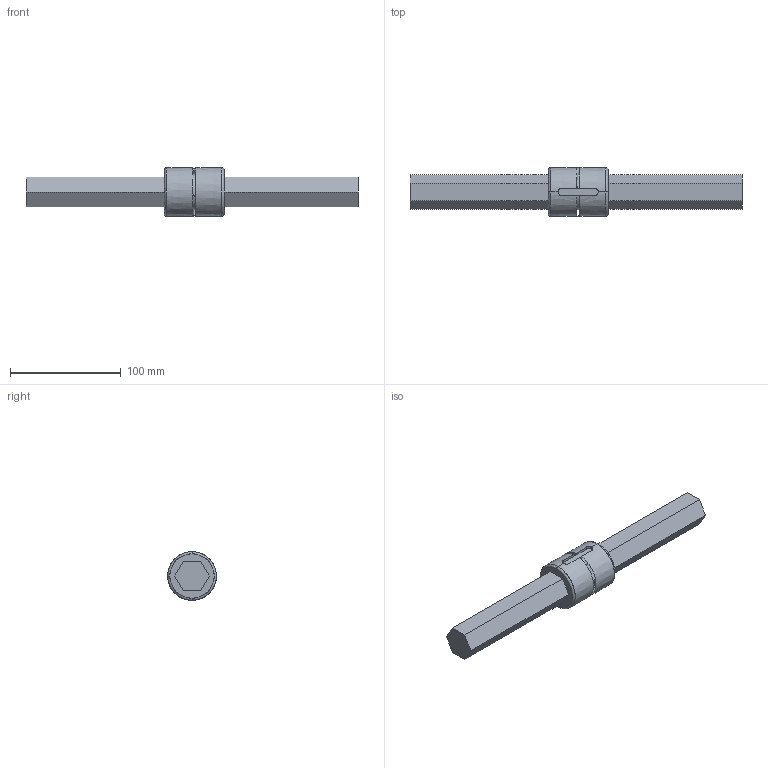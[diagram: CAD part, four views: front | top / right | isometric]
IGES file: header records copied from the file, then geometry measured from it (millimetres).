
Global section: file name: No Iges File Name specified; native system: AutoDesk Inventor R10; preprocessor: AutoDesk Inventor Iges Exporter R10; author: No Author specified; organization: No Organization specified; date: 20101224.163659; units: millimetre
Bounding box: 300 x 44 x 44 mm (x, y, z)
Surface area: 43578.9 mm2 (no closed solid volume)
Topology: 0 solids, 0 shells, 44 faces, 314 edges, 313 vertices
Faces by surface type: plane 19, revolution 16, bspline 9
